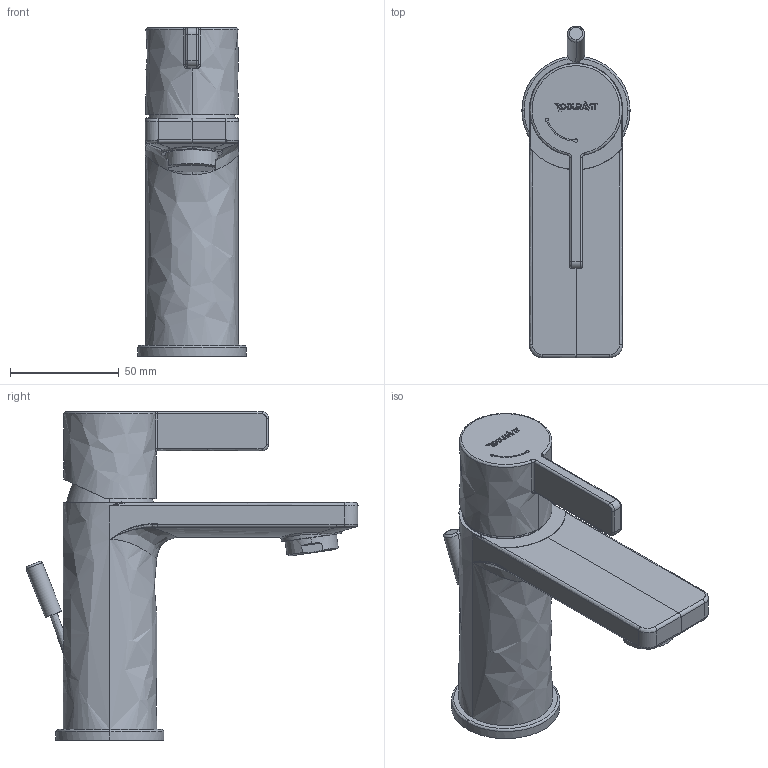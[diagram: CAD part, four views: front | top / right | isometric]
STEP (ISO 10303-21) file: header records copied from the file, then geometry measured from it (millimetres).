
FILE_DESCRIPTION(/* description */ (''),/* implementation_level */ '2;1');
FILE_NAME(/* name */ 'DE1011001010',/* time_stamp */ '2021-06-22T09:23:05+02:00',/* author */ (''),/* organization */ (''),/* preprocessor_version */ 'ST-DEVELOPER v15',/* originating_system */ '',/* authorisation */ '');
FILE_SCHEMA (('AUTOMOTIVE_DESIGN'));
Length unit declared in the file: millimetre
Products named in the file (1): Document
Bounding box: 49.8 x 152.85 x 151.32 mm (x, y, z)
Volume: 1612.7 mm3; surface area: 41257.7 mm2
Topology: 1 solids, 7 shells, 259 faces, 651 edges, 416 vertices
Faces by surface type: bspline 145, plane 114
Entity records: 13541 total; most frequent: CARTESIAN_POINT 9390, ORIENTED_EDGE 1266, EDGE_CURVE 648, B_SPLINE_CURVE_WITH_KNOTS 531, VERTEX_POINT 416, EDGE_LOOP 284, ADVANCED_FACE 258, FACE_OUTER_BOUND 258
